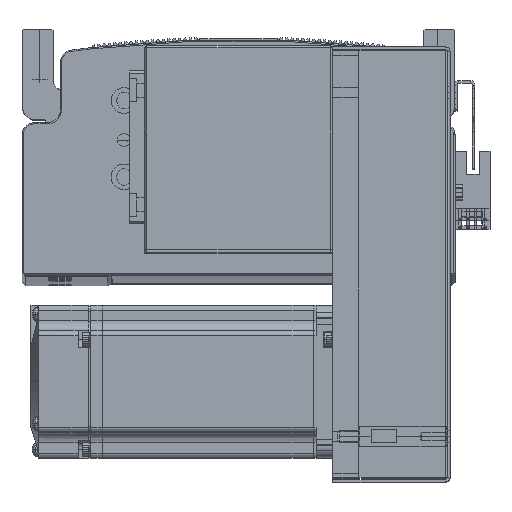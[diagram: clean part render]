
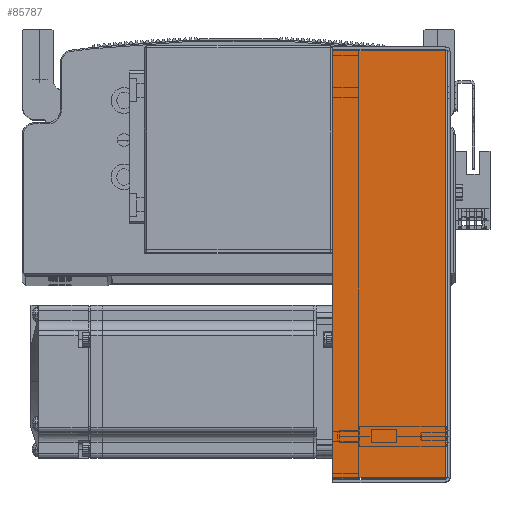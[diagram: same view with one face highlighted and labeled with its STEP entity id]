
A CAD part, top view. The second image highlights one B-rep face of the part: STEP entity #85787.
In plain terms, the highlighted planar face has unit normal (0, 0, 1) as drawn and (0, 0, -1) by its records, which use the part's own axes.
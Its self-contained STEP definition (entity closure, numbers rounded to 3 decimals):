
#5129 = FACE_OUTER_BOUND ( 'NONE', #73242, .T. ) ;
#10573 = LINE ( 'NONE', #41706, #10583 ) ;
#10580 = VECTOR ( 'NONE', #41726, 1000. ) ;
#10583 = VECTOR ( 'NONE', #41694, 1000. ) ;
#10588 = LINE ( 'NONE', #41737, #10580 ) ;
#10623 = LINE ( 'NONE', #41784, #10624 ) ;
#10624 = VECTOR ( 'NONE', #41816, 1000. ) ;
#10651 = LINE ( 'NONE', #41805, #10676 ) ;
#10676 = VECTOR ( 'NONE', #41843, 1000. ) ;
#22359 = AXIS2_PLACEMENT_3D ( 'NONE', #23299, #23265, #23267 ) ;
#23265 = DIRECTION ( 'NONE',  ( 0., 0., 1. ) ) ;
#23267 = DIRECTION ( 'NONE',  ( 0., -1., 0. ) ) ;
#23288 = PLANE ( 'NONE',  #22359 ) ;
#23299 = CARTESIAN_POINT ( 'NONE',  ( 0., 0., -40.5 ) ) ;
#28943 = VERTEX_POINT ( 'NONE', #76508 ) ;
#28981 = VERTEX_POINT ( 'NONE', #76541 ) ;
#28985 = VERTEX_POINT ( 'NONE', #76534 ) ;
#28997 = VERTEX_POINT ( 'NONE', #76585 ) ;
#41694 = DIRECTION ( 'NONE',  ( 0., 1., 0. ) ) ;
#41706 = CARTESIAN_POINT ( 'NONE',  ( -83.793, 0., -40.5 ) ) ;
#41726 = DIRECTION ( 'NONE',  ( 1., 0., 0. ) ) ;
#41737 = CARTESIAN_POINT ( 'NONE',  ( 0., 0.737, -40.5 ) ) ;
#41784 = CARTESIAN_POINT ( 'NONE',  ( 84.5, 45., -40.5 ) ) ;
#41805 = CARTESIAN_POINT ( 'NONE',  ( 83.793, 0., -40.5 ) ) ;
#41816 = DIRECTION ( 'NONE',  ( 1., 0., 0. ) ) ;
#41843 = DIRECTION ( 'NONE',  ( 0., 1., 0. ) ) ;
#58661 = ORIENTED_EDGE ( 'NONE', *, *, #61447, .F. ) ;
#58676 = ORIENTED_EDGE ( 'NONE', *, *, #61412, .F. ) ;
#58679 = ORIENTED_EDGE ( 'NONE', *, *, #61441, .T. ) ;
#58684 = ORIENTED_EDGE ( 'NONE', *, *, #61397, .T. ) ;
#61397 = EDGE_CURVE ( 'NONE', #28997, #28985, #10573, .T. ) ;
#61412 = EDGE_CURVE ( 'NONE', #28997, #28981, #10588, .T. ) ;
#61441 = EDGE_CURVE ( 'NONE', #28985, #28943, #10623, .T. ) ;
#61447 = EDGE_CURVE ( 'NONE', #28981, #28943, #10651, .T. ) ;
#73242 = EDGE_LOOP ( 'NONE', ( #58676, #58684, #58679, #58661 ) ) ;
#76508 = CARTESIAN_POINT ( 'NONE',  ( 83.793, 45., -40.5 ) ) ;
#76534 = CARTESIAN_POINT ( 'NONE',  ( -83.793, 45., -40.5 ) ) ;
#76541 = CARTESIAN_POINT ( 'NONE',  ( 83.793, 0.737, -40.5 ) ) ;
#76585 = CARTESIAN_POINT ( 'NONE',  ( -83.793, 0.737, -40.5 ) ) ;
#85787 = ADVANCED_FACE ( 'NONE', ( #5129 ), #23288, .F. ) ;
